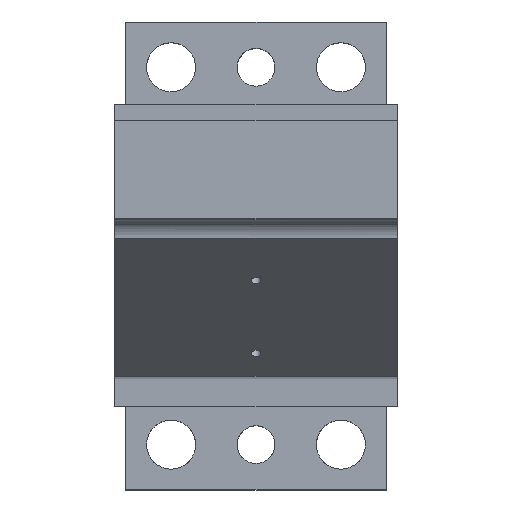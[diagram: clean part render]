
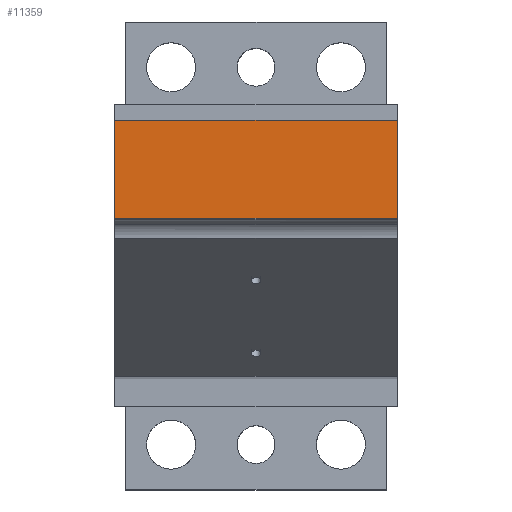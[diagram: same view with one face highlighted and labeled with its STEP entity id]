
A CAD part, top view. The second image highlights one B-rep face of the part: STEP entity #11359.
In plain terms, the highlighted planar face has unit normal (0, 0, 1).
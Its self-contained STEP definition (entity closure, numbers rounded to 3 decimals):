
#3502 = CARTESIAN_POINT ( 'NONE',  ( 37.5, 26., 65. ) ) ;
#3549 = EDGE_LOOP ( 'NONE', ( #6947, #10512, #5999, #9380 ) ) ;
#4309 = VECTOR ( 'NONE', #15617, 1000. ) ;
#4527 = DIRECTION ( 'NONE',  ( 0., 1., 0. ) ) ;
#4686 = AXIS2_PLACEMENT_3D ( 'NONE', #12677, #9134, #20675 ) ;
#4877 = LINE ( 'NONE', #9230, #19075 ) ;
#5999 = ORIENTED_EDGE ( 'NONE', *, *, #20340, .T. ) ;
#6947 = ORIENTED_EDGE ( 'NONE', *, *, #16824, .T. ) ;
#8909 = DIRECTION ( 'NONE',  ( -1., 0., 0. ) ) ;
#9134 = DIRECTION ( 'NONE',  ( 0., 0., 1. ) ) ;
#9230 = CARTESIAN_POINT ( 'NONE',  ( 37.5, 13., 65. ) ) ;
#9380 = ORIENTED_EDGE ( 'NONE', *, *, #18627, .T. ) ;
#10512 = ORIENTED_EDGE ( 'NONE', *, *, #11389, .F. ) ;
#10705 = CARTESIAN_POINT ( 'NONE',  ( 0., 26., 65. ) ) ;
#10716 = VECTOR ( 'NONE', #4527, 1000. ) ;
#10944 = CARTESIAN_POINT ( 'NONE',  ( -37.5, 13., 65. ) ) ;
#11124 = VECTOR ( 'NONE', #8909, 1000. ) ;
#11359 = ADVANCED_FACE ( 'NONE', ( #19761 ), #12445, .T. ) ;
#11389 = EDGE_CURVE ( 'NONE', #15092, #13897, #13577, .T. ) ;
#12445 = PLANE ( 'NONE',  #4686 ) ;
#12677 = CARTESIAN_POINT ( 'NONE',  ( -41.25, -1.3, 65. ) ) ;
#13577 = LINE ( 'NONE', #10944, #10716 ) ;
#13897 = VERTEX_POINT ( 'NONE', #18472 ) ;
#15092 = VERTEX_POINT ( 'NONE', #17969 ) ;
#15231 = CARTESIAN_POINT ( 'NONE',  ( 37.5, 0., 65. ) ) ;
#15617 = DIRECTION ( 'NONE',  ( 1., 0., 0. ) ) ;
#16059 = VERTEX_POINT ( 'NONE', #15231 ) ;
#16541 = LINE ( 'NONE', #10705, #11124 ) ;
#16824 = EDGE_CURVE ( 'NONE', #17145, #13897, #16541, .T. ) ;
#16981 = CARTESIAN_POINT ( 'NONE',  ( 0., 0., 65. ) ) ;
#17145 = VERTEX_POINT ( 'NONE', #3502 ) ;
#17483 = LINE ( 'NONE', #16981, #4309 ) ;
#17969 = CARTESIAN_POINT ( 'NONE',  ( -37.5, 0., 65. ) ) ;
#18472 = CARTESIAN_POINT ( 'NONE',  ( -37.5, 26., 65. ) ) ;
#18627 = EDGE_CURVE ( 'NONE', #16059, #17145, #4877, .T. ) ;
#18844 = DIRECTION ( 'NONE',  ( 0., 1., 0. ) ) ;
#19075 = VECTOR ( 'NONE', #18844, 1000. ) ;
#19761 = FACE_OUTER_BOUND ( 'NONE', #3549, .T. ) ;
#20340 = EDGE_CURVE ( 'NONE', #15092, #16059, #17483, .T. ) ;
#20675 = DIRECTION ( 'NONE',  ( 1., 0., 0. ) ) ;
